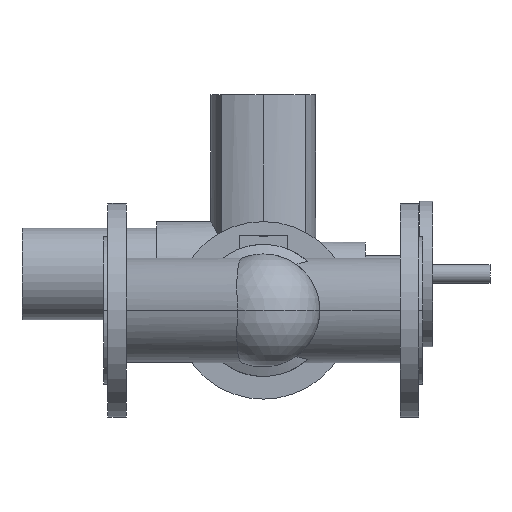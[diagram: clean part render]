
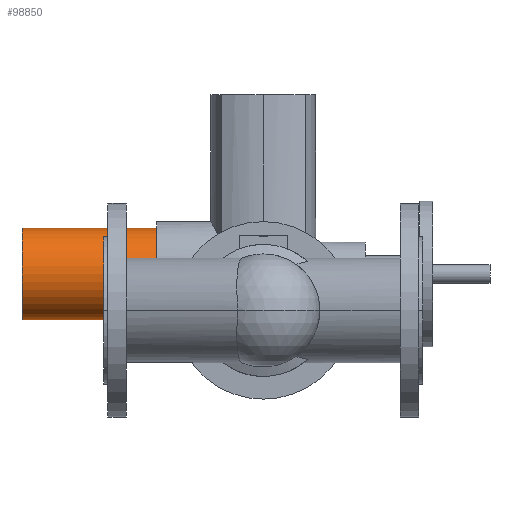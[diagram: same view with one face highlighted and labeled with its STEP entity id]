
A CAD part, front view. The second image highlights one B-rep face of the part: STEP entity #98850.
In plain terms, the highlighted cylindrical face has radius 50.5 mm (diameter 101 mm), a partial arc.
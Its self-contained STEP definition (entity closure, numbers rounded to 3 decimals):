
#53880=CARTESIAN_POINT('',(-16.,699.2,40.));
#53890=DIRECTION('',(1.,0.,0.));
#53900=DIRECTION('',(0.,0.,-1.));
#53910=AXIS2_PLACEMENT_3D('',#53880,#53890,#53900);
#53920=CYLINDRICAL_SURFACE('',#53910,50.5);
#53930=CARTESIAN_POINT('',(-16.,699.2,90.5));
#53940=DIRECTION('',(1.,0.,0.));
#53950=VECTOR('',#53940,1.);
#53960=LINE('',#53930,#53950);
#53970=CARTESIAN_POINT('',(-90.,699.2,90.5));
#53980=VERTEX_POINT('',#53970);
#53990=CARTESIAN_POINT('',(58.,699.2,90.5));
#54000=VERTEX_POINT('',#53990);
#54010=SURFACE_CURVE('',#53960,(#53920,#53920),.CURVE_3D.);
#54020=EDGE_CURVE('',#53980,#54000,#54010,.T.);
#54040=CARTESIAN_POINT('',(-90.,699.2,40.));
#54050=DIRECTION('',(-1.,0.,0.));
#54060=DIRECTION('',(0.,0.,-1.));
#54070=AXIS2_PLACEMENT_3D('',#54040,#54050,#54060);
#54080=CIRCLE('',#54070,50.5);
#54090=CARTESIAN_POINT('',(-90.,699.2,-10.5));
#54100=VERTEX_POINT('',#54090);
#54110=CARTESIAN_POINT('',(-90.,699.2,14.75));
#54120=DIRECTION('',(-1.,0.,0.));
#54130=DIRECTION('',(0.,0.,-1.));
#54140=AXIS2_PLACEMENT_3D('',#54110,#54120,#54130);
#54150=PLANE('',#54140);
#54190=CARTESIAN_POINT('',(-16.,699.2,-10.5));
#54200=DIRECTION('',(1.,0.,0.));
#54210=VECTOR('',#54200,1.);
#54220=LINE('',#54190,#54210);
#54230=CARTESIAN_POINT('',(58.,699.2,-10.5));
#54240=VERTEX_POINT('',#54230);
#54250=SURFACE_CURVE('',#54220,(#53920,#53920),.CURVE_3D.);
#54260=EDGE_CURVE('',#54100,#54240,#54250,.T.);
#54280=CARTESIAN_POINT('',(58.,699.2,40.));
#54290=DIRECTION('',(-1.,0.,0.));
#54300=DIRECTION('',(0.,0.,-1.));
#54310=AXIS2_PLACEMENT_3D('',#54280,#54290,#54300);
#54320=CIRCLE('',#54310,50.5);
#54330=CARTESIAN_POINT('',(58.,699.2,-14.));
#54340=DIRECTION('',(-1.,0.,0.));
#54350=DIRECTION('',(0.,0.,-1.));
#54360=AXIS2_PLACEMENT_3D('',#54330,#54340,#54350);
#54370=PLANE('',#54360);
#76350=SURFACE_CURVE('',#54320,(#54370,#53920),.CURVE_3D.);
#76360=EDGE_CURVE('',#54240,#54000,#76350,.T.);
#77930=SURFACE_CURVE('',#54080,(#53920,#54150),.CURVE_3D.);
#77940=EDGE_CURVE('',#54100,#53980,#77930,.T.);
#98790=ORIENTED_EDGE('',*,*,#76360,.T.);
#98800=ORIENTED_EDGE('',*,*,#54260,.T.);
#98810=ORIENTED_EDGE('',*,*,#77940,.F.);
#98820=ORIENTED_EDGE('',*,*,#54020,.F.);
#98830=EDGE_LOOP('',(#98820,#98810,#98800,#98790));
#98840=FACE_OUTER_BOUND('',#98830,.T.);
#98850=ADVANCED_FACE('',(#98840),#53920,.T.);
